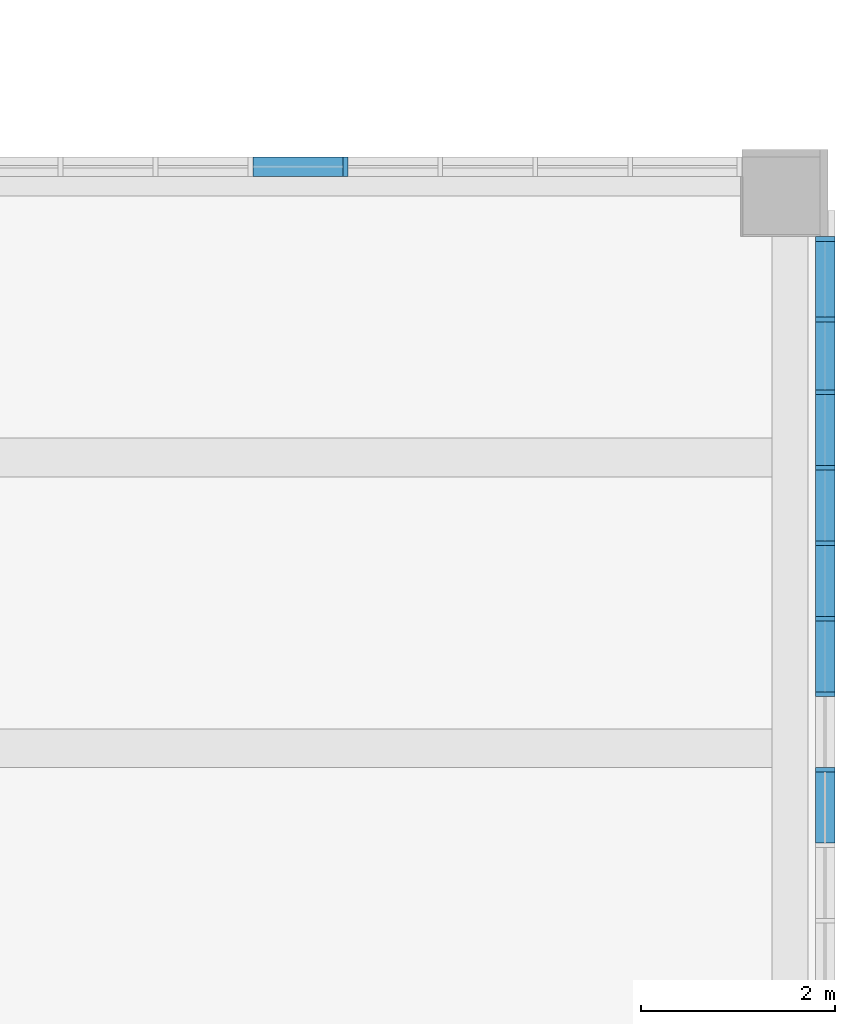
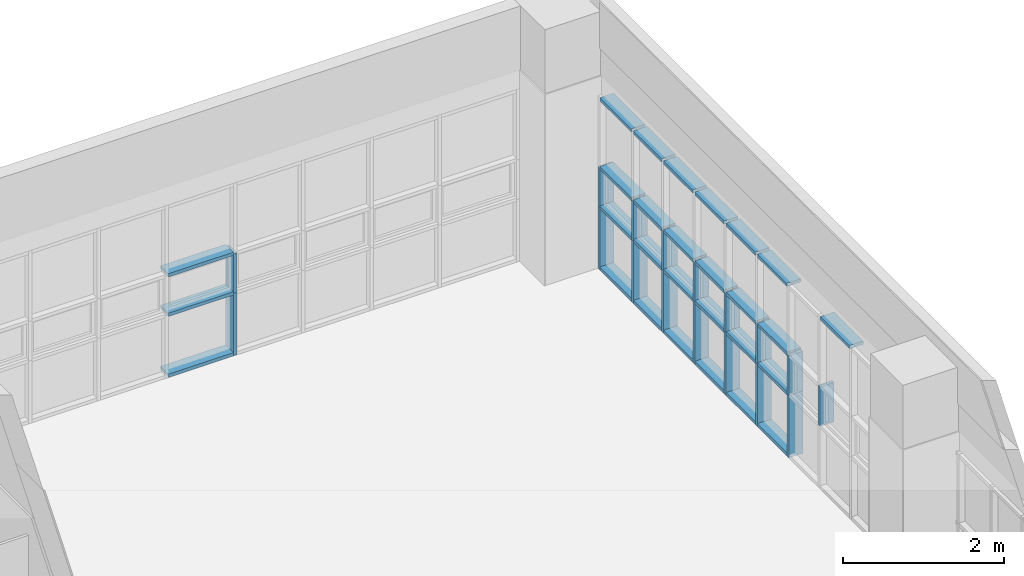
# One storey, part 25 of 76: 45 members, 2 elements without a shape of their own.
"""IFC2X3 building model written with IfcOpenShell, lengths in millimetres."""

from ifc_helpers import new_model, entity, si_unit, converted_unit, derived_unit, direction, frame, origin, origin_2d_with_axis, place, context, subcontext, project, spatial, rectangle, extrude, source, transform, mapped, material, type_object, type_shapes, element, aggregate, save


model = new_model("IFC2X3")

# Units and contexts
model_context = context("Model", 3, precision=0.01, world=origin(), true_north=direction((6.123031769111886e-17, 1.0)))
body_context = subcontext(model_context, "Body", "Model", "MODEL_VIEW")
ifc_project = project(units=[si_unit("LENGTHUNIT", "METRE", prefix="MILLI"), si_unit("AREAUNIT", "SQUARE_METRE"), si_unit("VOLUMEUNIT", "CUBIC_METRE"), converted_unit("PLANEANGLEUNIT", "DEGREE", entity("IfcRatioMeasure", 0.017453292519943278), si_unit("PLANEANGLEUNIT", "RADIAN"), dimensions=[0, 0, 0, 0, 0, 0, 0]), si_unit("MASSUNIT", "GRAM", prefix="KILO"), derived_unit("MASSDENSITYUNIT", [(si_unit("MASSUNIT", "GRAM", prefix="KILO"), 1), (si_unit("LENGTHUNIT", "METRE"), -3)]), derived_unit("MOMENTOFINERTIAUNIT", [(si_unit("LENGTHUNIT", "METRE"), 4)]), si_unit("TIMEUNIT", "SECOND"), si_unit("FREQUENCYUNIT", "HERTZ"), si_unit("THERMODYNAMICTEMPERATUREUNIT", "DEGREE_CELSIUS"), derived_unit("THERMALTRANSMITTANCEUNIT", [(si_unit("MASSUNIT", "GRAM", prefix="KILO"), 1), (si_unit("THERMODYNAMICTEMPERATUREUNIT", "KELVIN"), -1), (si_unit("TIMEUNIT", "SECOND"), -3)]), derived_unit("VOLUMETRICFLOWRATEUNIT", [(si_unit("LENGTHUNIT", "METRE"), 3), (si_unit("TIMEUNIT", "SECOND"), -1)]), derived_unit("MASSFLOWRATEUNIT", [(si_unit("MASSUNIT", "GRAM", prefix="KILO"), 1), (si_unit("TIMEUNIT", "SECOND"), -1)]), derived_unit("ROTATIONALFREQUENCYUNIT", [(si_unit("TIMEUNIT", "SECOND"), -1)]), si_unit("ELECTRICCURRENTUNIT", "AMPERE"), si_unit("ELECTRICVOLTAGEUNIT", "VOLT"), si_unit("POWERUNIT", "WATT"), si_unit("FORCEUNIT", "NEWTON", prefix="KILO"), si_unit("ILLUMINANCEUNIT", "LUX"), si_unit("LUMINOUSFLUXUNIT", "LUMEN"), si_unit("LUMINOUSINTENSITYUNIT", "CANDELA"), derived_unit("USERDEFINED", [(si_unit("MASSUNIT", "GRAM", prefix="KILO"), -1), (si_unit("LENGTHUNIT", "METRE"), -2), (si_unit("TIMEUNIT", "SECOND"), 3), (si_unit("LUMINOUSFLUXUNIT", "LUMEN"), 1)]), derived_unit("SOUNDPOWERUNIT", [(si_unit("MASSUNIT", "GRAM", prefix="KILO"), 1), (si_unit("LENGTHUNIT", "METRE"), 2), (si_unit("TIMEUNIT", "SECOND"), -3)]), derived_unit("SOUNDPRESSUREUNIT", [(si_unit("MASSUNIT", "GRAM", prefix="KILO"), 1), (si_unit("LENGTHUNIT", "METRE"), -1), (si_unit("TIMEUNIT", "SECOND"), -2)]), derived_unit("LINEARVELOCITYUNIT", [(si_unit("LENGTHUNIT", "METRE"), 1), (si_unit("TIMEUNIT", "SECOND"), -1)]), si_unit("PRESSUREUNIT", "PASCAL"), derived_unit("USERDEFINED", [(si_unit("LENGTHUNIT", "METRE"), -2), (si_unit("MASSUNIT", "GRAM", prefix="KILO"), 1), (si_unit("TIMEUNIT", "SECOND"), -2)]), derived_unit("LINEARFORCEUNIT", [(si_unit("MASSUNIT", "GRAM", prefix="KILO"), 1), (si_unit("LENGTHUNIT", "METRE"), 1), (si_unit("TIMEUNIT", "SECOND"), -2), (si_unit("LENGTHUNIT", "METRE"), -1)]), derived_unit("PLANARFORCEUNIT", [(si_unit("MASSUNIT", "GRAM", prefix="KILO"), 1), (si_unit("LENGTHUNIT", "METRE"), 1), (si_unit("TIMEUNIT", "SECOND"), -2), (si_unit("LENGTHUNIT", "METRE"), -2)])], contexts=[model_context])

# Site, building, storey
site_placement = place(None, frame((-14167.972527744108, -657.2125860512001, 0.0)))
site = spatial("IfcSite", under=ifc_project, at=site_placement, Name="Default", CompositionType="ELEMENT")
building_placement = place(site_placement, origin())
building = spatial("IfcBuilding", under=site, at=building_placement, Name="Sample Building", CompositionType="ELEMENT")
storey_placement = place(building_placement, frame((0.0, 0.0, 9300.0)))
storey = spatial("IfcBuildingStorey", under=building, at=storey_placement, Name="지상 3층", CompositionType="ELEMENT", Elevation=9300.000000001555)

# Curtain wall, member
curtain_wall_type = type_object("IfcCurtainWallType", Name="커튼월:CW112-스테인리스 스틸 커튼월", PredefinedType="NOTDEFINED")
curtain_wall_1_placement = place(storey_placement, frame((0.0, 0.0, -9300.0)))
curtain_wall_1 = element("IfcCurtainWall", 1, at=curtain_wall_1_placement, inside=storey, type_object=curtain_wall_type, Name="커튼월:CW112-스테인리스 스틸 커튼월", ObjectType="커튼월:CW112-스테인리스 스틸 커튼월")
ifc_material = material(Name="<Unnamed>")
member_type_1 = type_object("IfcMemberType", Name="직사각형 멀리언:CW200-직사각형 멀리언 50x200mm", PredefinedType="MULLION", material=ifc_material)
shared_shape_1 = source(origin(), body_context, "Body", "SweptSolid", [
    extrude(rectangle(XDim=200.0, YDim=50.0, at=origin_2d_with_axis()), frame((0.0, 0.0, -600.0), z_axis=(0.0, 0.0, 1.0), x_axis=(0.0, -1.0, 0.0)), (0.0, 0.0, 1.0), 600.0),
])
type_shapes(member_type_1, [shared_shape_1])
member_1_placement = place(curtain_wall_1_placement, frame((51517.96382893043, 26051.81770709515, 10330.0), z_axis=(0.0, 0.0, -1.0), x_axis=(0.0, -1.0, 0.0)))
member_1 = element("IfcMember", 2, at=member_1_placement, type_object=member_type_1, material=ifc_material, Name="직사각형 멀리언:CW200-직사각형 멀리언 50x200mm", ObjectType="직사각형 멀리언:CW200-직사각형 멀리언 50x200mm", context=body_context, shape_type="MappedRepresentation", body=[
    mapped(shared_shape_1, transform((0.0, 0.0, 0.0), scale=1.0)),
])

# Curtain wall, members
curtain_wall_2_placement = place(storey_placement, frame((0.0, 0.0, -9300.0)))
curtain_wall_2 = element("IfcCurtainWall", 3, at=curtain_wall_2_placement, inside=storey, type_object=curtain_wall_type, Name="커튼월:CW112-스테인리스 스틸 커튼월", ObjectType="커튼월:CW112-스테인리스 스틸 커튼월")
member_type_2 = type_object("IfcMemberType", Name="직사각형 멀리언:CW200-직사각형 멀리언 50x200mm", PredefinedType="MULLION", material=ifc_material)
shared_shape_2 = source(origin(), body_context, "Body", "SweptSolid", [
    extrude(rectangle(XDim=200.0, YDim=50.0, at=origin_2d_with_axis()), frame((0.0, 0.0, -600.0), z_axis=(0.0, 0.0, 1.0), x_axis=(0.0, -1.0, 0.0)), (0.0, 0.0, 1.0), 600.0),
])
type_shapes(member_type_2, [shared_shape_2])
member_2_placement = place(curtain_wall_2_placement, frame((46567.96815711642, 29157.21229514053, 10330.0), z_axis=(0.0, 0.0, -1.0), x_axis=(-1.0, 0.0, 0.0)))
member_2 = element("IfcMember", 4, at=member_2_placement, type_object=member_type_2, material=ifc_material, Name="직사각형 멀리언:CW200-직사각형 멀리언 50x200mm", ObjectType="직사각형 멀리언:CW200-직사각형 멀리언 50x200mm", context=body_context, shape_type="MappedRepresentation", body=[
    mapped(shared_shape_2, transform((0.0, 0.0, 0.0), scale=1.0)),
])
member_type_3 = type_object("IfcMemberType", Name="직사각형 멀리언:CW200-직사각형 멀리언 50x200mm", PredefinedType="MULLION", material=ifc_material)
shared_shape_3 = source(origin(), body_context, "Body", "SweptSolid", [
    extrude(rectangle(XDim=200.0, YDim=50.0, at=origin_2d_with_axis()), frame((0.0, 0.0, -950.0), z_axis=(0.0, 0.0, 1.0), x_axis=(0.0, -1.0, 0.0)), (0.0, 0.0, 1.0), 949.9999999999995),
])
type_shapes(member_type_3, [shared_shape_3])
member_3_placement = place(curtain_wall_2_placement, frame((46567.96815711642, 29157.21229514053, 9380.0), z_axis=(0.0, 0.0, -1.0), x_axis=(-1.0, 0.0, 0.0)))
member_3 = element("IfcMember", 5, at=member_3_placement, type_object=member_type_3, material=ifc_material, Name="직사각형 멀리언:CW200-직사각형 멀리언 50x200mm", ObjectType="직사각형 멀리언:CW200-직사각형 멀리언 50x200mm", context=body_context, shape_type="MappedRepresentation", body=[
    mapped(shared_shape_3, transform((0.0, 0.0, 0.0), scale=1.0)),
])

# Member
member_type_4 = type_object("IfcMemberType", Name="직사각형 멀리언:CW200-직사각형 멀리언 50x200mm", PredefinedType="MULLION", material=ifc_material)
shared_shape_4 = source(origin(), body_context, "Body", "SweptSolid", [
    extrude(rectangle(XDim=200.0, YDim=50.0, at=origin_2d_with_axis()), frame((-25.0, 0.0, -783.3946888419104), z_axis=(0.0, 0.0, 1.0), x_axis=(0.0, -1.0, 0.0)), (0.0, 0.0, 1.0), 783.3946888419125),
])
type_shapes(member_type_4, [shared_shape_4])
member_4_placement = place(curtain_wall_1_placement, frame((51517.96382893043, 28389.21239593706, 9380.0), z_axis=(0.0, 1.0, 0.0), x_axis=(0.0, 0.0, -1.0)))
member_4 = element("IfcMember", 6, at=member_4_placement, type_object=member_type_4, material=ifc_material, Name="직사각형 멀리언:CW200-직사각형 멀리언 50x200mm", ObjectType="직사각형 멀리언:CW200-직사각형 멀리언 50x200mm", context=body_context, shape_type="MappedRepresentation", body=[
    mapped(shared_shape_4, transform((0.0, 0.0, 0.0), scale=1.0)),
])

member_type_5 = type_object("IfcMemberType", Name="직사각형 멀리언:CW200-직사각형 멀리언 50x200mm", PredefinedType="MULLION", material=ifc_material)
shared_shape_5 = source(origin(), body_context, "Body", "SweptSolid", [
    extrude(rectangle(XDim=200.0, YDim=50.0, at=origin_2d_with_axis()), frame((-25.0, 0.0, -600.0), z_axis=(0.0, 0.0, 1.0), x_axis=(0.0, -1.0, 0.0)), (0.0, 0.0, 1.0), 599.9999999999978),
])
type_shapes(member_type_5, [shared_shape_5])
member_5_placement = place(curtain_wall_1_placement, frame((51517.96382893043, 28439.212395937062, 10930.0), z_axis=(0.0, 0.0, 1.0), x_axis=(0.0, 1.0, 0.0)))
member_5 = element("IfcMember", 7, at=member_5_placement, type_object=member_type_5, material=ifc_material, Name="직사각형 멀리언:CW200-직사각형 멀리언 50x200mm", ObjectType="직사각형 멀리언:CW200-직사각형 멀리언 50x200mm", context=body_context, shape_type="MappedRepresentation", body=[
    mapped(shared_shape_5, transform((0.0, 0.0, 0.0), scale=1.0)),
])

member_type_6 = type_object("IfcMemberType", Name="직사각형 멀리언:CW200-직사각형 멀리언 50x200mm", PredefinedType="MULLION", material=ifc_material)
shared_shape_6 = source(origin(), body_context, "Body", "SweptSolid", [
    extrude(rectangle(XDim=200.0, YDim=50.0, at=origin_2d_with_axis()), frame((-25.0, 0.0, -950.0), z_axis=(0.0, 0.0, 1.0), x_axis=(0.0, -1.0, 0.0)), (0.0, 0.0, 1.0), 950.0000000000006),
])
type_shapes(member_type_6, [shared_shape_6])
member_6_placement = place(curtain_wall_1_placement, frame((51517.96382893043, 28439.212395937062, 10330.0), z_axis=(0.0, 0.0, 1.0), x_axis=(0.0, 1.0, 0.0)))
member_6 = element("IfcMember", 8, at=member_6_placement, type_object=member_type_6, material=ifc_material, Name="직사각형 멀리언:CW200-직사각형 멀리언 50x200mm", ObjectType="직사각형 멀리언:CW200-직사각형 멀리언 50x200mm", context=body_context, shape_type="MappedRepresentation", body=[
    mapped(shared_shape_6, transform((0.0, 0.0, 0.0), scale=1.0)),
])

member_type_7 = type_object("IfcMemberType", Name="직사각형 멀리언:CW200-직사각형 멀리언 50x200mm", PredefinedType="MULLION", material=ifc_material)
shared_shape_7 = source(origin(), body_context, "Body", "SweptSolid", [
    extrude(rectangle(XDim=200.0, YDim=50.0, at=origin_2d_with_axis()), frame((-25.0, 0.0, -783.3946888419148), z_axis=(0.0, 0.0, 1.0), x_axis=(0.0, -1.0, 0.0)), (0.0, 0.0, 1.0), 783.3946888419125),
])
type_shapes(member_type_7, [shared_shape_7])
member_7_placement = place(curtain_wall_1_placement, frame((51517.96382893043, 27605.817707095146, 12000.0), z_axis=(0.0, -1.0, 0.0), x_axis=(0.0, 0.0, 1.0)))
member_7 = element("IfcMember", 9, at=member_7_placement, type_object=member_type_7, material=ifc_material, Name="직사각형 멀리언:CW200-직사각형 멀리언 50x200mm", ObjectType="직사각형 멀리언:CW200-직사각형 멀리언 50x200mm", context=body_context, shape_type="MappedRepresentation", body=[
    mapped(shared_shape_7, transform((0.0, 0.0, 0.0), scale=1.0)),
])

member_type_8 = type_object("IfcMemberType", Name="직사각형 멀리언:CW200-직사각형 멀리언 50x200mm", PredefinedType="MULLION", material=ifc_material)
shared_shape_8 = source(origin(), body_context, "Body", "SweptSolid", [
    extrude(rectangle(XDim=200.0, YDim=50.0, at=origin_2d_with_axis()), frame((-25.0, 0.0, -700.0), z_axis=(0.0, 0.0, 1.0), x_axis=(0.0, -1.0, 0.0)), (0.0, 0.0, 1.0), 699.999999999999),
])
type_shapes(member_type_8, [shared_shape_8])
member_8_placement = place(curtain_wall_1_placement, frame((51517.96382893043, 27555.81770709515, 9380.0), z_axis=(0.0, 1.0, 0.0), x_axis=(0.0, 0.0, -1.0)))
member_8 = element("IfcMember", 10, at=member_8_placement, type_object=member_type_8, material=ifc_material, Name="직사각형 멀리언:CW200-직사각형 멀리언 50x200mm", ObjectType="직사각형 멀리언:CW200-직사각형 멀리언 50x200mm", context=body_context, shape_type="MappedRepresentation", body=[
    mapped(shared_shape_8, transform((0.0, 0.0, 0.0), scale=1.0)),
])

member_type_9 = type_object("IfcMemberType", Name="직사각형 멀리언:CW200-직사각형 멀리언 50x200mm", PredefinedType="MULLION", material=ifc_material)
shared_shape_9 = source(origin(), body_context, "Body", "SweptSolid", [
    extrude(rectangle(XDim=200.0, YDim=50.0, at=origin_2d_with_axis()), frame((0.0, 0.0, -700.0), z_axis=(0.0, 0.0, 1.0), x_axis=(0.0, -1.0, 0.0)), (0.0, 0.0, 1.0), 699.9999999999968),
])
type_shapes(member_type_9, [shared_shape_9])
member_9_placement = place(curtain_wall_1_placement, frame((51517.96382893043, 26855.81770709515, 10330.0), z_axis=(0.0, -1.0, 0.0), x_axis=(0.0, 0.0, 1.0)))
member_9 = element("IfcMember", 11, at=member_9_placement, type_object=member_type_9, material=ifc_material, Name="직사각형 멀리언:CW200-직사각형 멀리언 50x200mm", ObjectType="직사각형 멀리언:CW200-직사각형 멀리언 50x200mm", context=body_context, shape_type="MappedRepresentation", body=[
    mapped(shared_shape_9, transform((0.0, 0.0, 0.0), scale=1.0)),
])

member_10_placement = place(curtain_wall_1_placement, frame((51517.96382893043, 26855.81770709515, 10930.0), z_axis=(0.0, -1.0, 0.0), x_axis=(0.0, 0.0, 1.0)))
member_10 = element("IfcMember", 12, at=member_10_placement, type_object=member_type_9, material=ifc_material, Name="직사각형 멀리언:CW200-직사각형 멀리언 50x200mm", ObjectType="직사각형 멀리언:CW200-직사각형 멀리언 50x200mm", context=body_context, shape_type="MappedRepresentation", body=[
    mapped(shared_shape_9, transform((0.0, 0.0, 0.0), scale=1.0)),
])

member_type_10 = type_object("IfcMemberType", Name="직사각형 멀리언:CW200-직사각형 멀리언 50x200mm", PredefinedType="MULLION", material=ifc_material)
shared_shape_10 = source(origin(), body_context, "Body", "SweptSolid", [
    extrude(rectangle(XDim=200.0, YDim=50.0, at=origin_2d_with_axis()), frame((0.0, 0.0, -950.0), z_axis=(0.0, 0.0, 1.0), x_axis=(0.0, -1.0, 0.0)), (0.0, 0.0, 1.0), 950.0000000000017),
])
type_shapes(member_type_10, [shared_shape_10])
member_11_placement = place(curtain_wall_1_placement, frame((51517.96382893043, 27580.817707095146, 9380.0), z_axis=(0.0, 0.0, -1.0), x_axis=(0.0, -1.0, 0.0)))
member_11 = element("IfcMember", 13, at=member_11_placement, type_object=member_type_10, material=ifc_material, Name="직사각형 멀리언:CW200-직사각형 멀리언 50x200mm", ObjectType="직사각형 멀리언:CW200-직사각형 멀리언 50x200mm", context=body_context, shape_type="MappedRepresentation", body=[
    mapped(shared_shape_10, transform((0.0, 0.0, 0.0), scale=1.0)),
])

member_12_placement = place(curtain_wall_1_placement, frame((51517.96382893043, 26830.81770709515, 9380.0), z_axis=(0.0, 0.0, -1.0), x_axis=(0.0, -1.0, 0.0)))
member_12 = element("IfcMember", 14, at=member_12_placement, type_object=member_type_10, material=ifc_material, Name="직사각형 멀리언:CW200-직사각형 멀리언 50x200mm", ObjectType="직사각형 멀리언:CW200-직사각형 멀리언 50x200mm", context=body_context, shape_type="MappedRepresentation", body=[
    mapped(shared_shape_10, transform((0.0, 0.0, 0.0), scale=1.0)),
])

member_13_placement = place(curtain_wall_1_placement, frame((51517.96382893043, 25272.81770709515, 9380.0), z_axis=(0.0, 0.0, -1.0), x_axis=(0.0, -1.0, 0.0)))
member_13 = element("IfcMember", 15, at=member_13_placement, type_object=member_type_10, material=ifc_material, Name="직사각형 멀리언:CW200-직사각형 멀리언 50x200mm", ObjectType="직사각형 멀리언:CW200-직사각형 멀리언 50x200mm", context=body_context, shape_type="MappedRepresentation", body=[
    mapped(shared_shape_10, transform((0.0, 0.0, 0.0), scale=1.0)),
])

member_14_placement = place(curtain_wall_1_placement, frame((51517.96382893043, 24493.81770709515, 9380.0), z_axis=(0.0, 0.0, -1.0), x_axis=(0.0, -1.0, 0.0)))
member_14 = element("IfcMember", 16, at=member_14_placement, type_object=member_type_10, material=ifc_material, Name="직사각형 멀리언:CW200-직사각형 멀리언 50x200mm", ObjectType="직사각형 멀리언:CW200-직사각형 멀리언 50x200mm", context=body_context, shape_type="MappedRepresentation", body=[
    mapped(shared_shape_10, transform((0.0, 0.0, 0.0), scale=1.0)),
])

member_15_placement = place(curtain_wall_1_placement, frame((51517.96382893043, 23714.817707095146, 9380.0), z_axis=(0.0, 0.0, -1.0), x_axis=(0.0, -1.0, 0.0)))
member_15 = element("IfcMember", 17, at=member_15_placement, type_object=member_type_10, material=ifc_material, Name="직사각형 멀리언:CW200-직사각형 멀리언 50x200mm", ObjectType="직사각형 멀리언:CW200-직사각형 멀리언 50x200mm", context=body_context, shape_type="MappedRepresentation", body=[
    mapped(shared_shape_10, transform((0.0, 0.0, 0.0), scale=1.0)),
])

member_type_11 = type_object("IfcMemberType", Name="직사각형 멀리언:CW200-직사각형 멀리언 50x200mm", PredefinedType="MULLION", material=ifc_material)
shared_shape_11 = source(origin(), body_context, "Body", "SweptSolid", [
    extrude(rectangle(XDim=200.0, YDim=50.0, at=origin_2d_with_axis()), frame((0.0, 0.0, -600.0), z_axis=(0.0, 0.0, 1.0), x_axis=(0.0, -1.0, 0.0)), (0.0, 0.0, 1.0), 599.9999999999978),
])
type_shapes(member_type_11, [shared_shape_11])
member_16_placement = place(curtain_wall_1_placement, frame((51517.96382893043, 27580.817707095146, 10330.0), z_axis=(0.0, 0.0, -1.0), x_axis=(0.0, -1.0, 0.0)))
member_16 = element("IfcMember", 18, at=member_16_placement, type_object=member_type_11, material=ifc_material, Name="직사각형 멀리언:CW200-직사각형 멀리언 50x200mm", ObjectType="직사각형 멀리언:CW200-직사각형 멀리언 50x200mm", context=body_context, shape_type="MappedRepresentation", body=[
    mapped(shared_shape_11, transform((0.0, 0.0, 0.0), scale=1.0)),
])

member_17_placement = place(curtain_wall_1_placement, frame((51517.96382893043, 26830.81770709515, 10330.0), z_axis=(0.0, 0.0, -1.0), x_axis=(0.0, -1.0, 0.0)))
member_17 = element("IfcMember", 19, at=member_17_placement, type_object=member_type_11, material=ifc_material, Name="직사각형 멀리언:CW200-직사각형 멀리언 50x200mm", ObjectType="직사각형 멀리언:CW200-직사각형 멀리언 50x200mm", context=body_context, shape_type="MappedRepresentation", body=[
    mapped(shared_shape_11, transform((0.0, 0.0, 0.0), scale=1.0)),
])

member_18_placement = place(curtain_wall_1_placement, frame((51517.96382893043, 25272.81770709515, 10330.0), z_axis=(0.0, 0.0, -1.0), x_axis=(0.0, -1.0, 0.0)))
member_18 = element("IfcMember", 20, at=member_18_placement, type_object=member_type_11, material=ifc_material, Name="직사각형 멀리언:CW200-직사각형 멀리언 50x200mm", ObjectType="직사각형 멀리언:CW200-직사각형 멀리언 50x200mm", context=body_context, shape_type="MappedRepresentation", body=[
    mapped(shared_shape_11, transform((0.0, 0.0, 0.0), scale=1.0)),
])

member_19_placement = place(curtain_wall_1_placement, frame((51517.96382893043, 24493.81770709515, 10330.0), z_axis=(0.0, 0.0, -1.0), x_axis=(0.0, -1.0, 0.0)))
member_19 = element("IfcMember", 21, at=member_19_placement, type_object=member_type_11, material=ifc_material, Name="직사각형 멀리언:CW200-직사각형 멀리언 50x200mm", ObjectType="직사각형 멀리언:CW200-직사각형 멀리언 50x200mm", context=body_context, shape_type="MappedRepresentation", body=[
    mapped(shared_shape_11, transform((0.0, 0.0, 0.0), scale=1.0)),
])

member_20_placement = place(curtain_wall_1_placement, frame((51517.96382893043, 23714.817707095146, 10330.0), z_axis=(0.0, 0.0, -1.0), x_axis=(0.0, -1.0, 0.0)))
member_20 = element("IfcMember", 22, at=member_20_placement, type_object=member_type_11, material=ifc_material, Name="직사각형 멀리언:CW200-직사각형 멀리언 50x200mm", ObjectType="직사각형 멀리언:CW200-직사각형 멀리언 50x200mm", context=body_context, shape_type="MappedRepresentation", body=[
    mapped(shared_shape_11, transform((0.0, 0.0, 0.0), scale=1.0)),
])

member_21_placement = place(curtain_wall_1_placement, frame((51517.963828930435, 22935.817707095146, 10330.0), z_axis=(0.0, 0.0, -1.0), x_axis=(0.0, -1.0, 0.0)))
member_21 = element("IfcMember", 23, at=member_21_placement, type_object=member_type_11, material=ifc_material, Name="직사각형 멀리언:CW200-직사각형 멀리언 50x200mm", ObjectType="직사각형 멀리언:CW200-직사각형 멀리언 50x200mm", context=body_context, shape_type="MappedRepresentation", body=[
    mapped(shared_shape_11, transform((0.0, 0.0, 0.0), scale=1.0)),
])

member_type_12 = type_object("IfcMemberType", Name="직사각형 멀리언:CW200-직사각형 멀리언 50x200mm", PredefinedType="MULLION", material=ifc_material)
shared_shape_12 = source(origin(), body_context, "Body", "SweptSolid", [
    extrude(rectangle(XDim=200.0, YDim=50.0, at=origin_2d_with_axis()), frame((-25.0, 0.0, -700.0), z_axis=(0.0, 0.0, 1.0), x_axis=(0.0, -1.0, 0.0)), (0.0, 0.0, 1.0), 699.9999999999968),
])
type_shapes(member_type_12, [shared_shape_12])
member_22_placement = place(curtain_wall_1_placement, frame((51517.96382893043, 26855.81770709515, 12000.0), z_axis=(0.0, -1.0, 0.0), x_axis=(0.0, 0.0, 1.0)))
member_22 = element("IfcMember", 24, at=member_22_placement, type_object=member_type_12, material=ifc_material, Name="직사각형 멀리언:CW200-직사각형 멀리언 50x200mm", ObjectType="직사각형 멀리언:CW200-직사각형 멀리언 50x200mm", context=body_context, shape_type="MappedRepresentation", body=[
    mapped(shared_shape_12, transform((0.0, 0.0, 0.0), scale=1.0)),
])

member_type_13 = type_object("IfcMemberType", Name="직사각형 멀리언:CW200-직사각형 멀리언 50x200mm", PredefinedType="MULLION", material=ifc_material)
shared_shape_13 = source(origin(), body_context, "Body", "SweptSolid", [
    extrude(rectangle(XDim=200.0, YDim=50.0, at=origin_2d_with_axis()), frame((-25.0, 0.0, -729.0), z_axis=(0.0, 0.0, 1.0), x_axis=(0.0, -1.0, 0.0)), (0.0, 0.0, 1.0), 729.000000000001),
])
type_shapes(member_type_13, [shared_shape_13])
member_23_placement = place(curtain_wall_1_placement, frame((51517.96382893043, 26805.81770709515, 9380.0), z_axis=(0.0, 1.0, 0.0), x_axis=(0.0, 0.0, -1.0)))
member_23 = element("IfcMember", 25, at=member_23_placement, type_object=member_type_13, material=ifc_material, Name="직사각형 멀리언:CW200-직사각형 멀리언 50x200mm", ObjectType="직사각형 멀리언:CW200-직사각형 멀리언 50x200mm", context=body_context, shape_type="MappedRepresentation", body=[
    mapped(shared_shape_13, transform((0.0, 0.0, 0.0), scale=1.0)),
])

member_24_placement = place(curtain_wall_1_placement, frame((51517.96382893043, 25247.81770709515, 9380.0), z_axis=(0.0, 1.0, 0.0), x_axis=(0.0, 0.0, -1.0)))
member_24 = element("IfcMember", 26, at=member_24_placement, type_object=member_type_13, material=ifc_material, Name="직사각형 멀리언:CW200-직사각형 멀리언 50x200mm", ObjectType="직사각형 멀리언:CW200-직사각형 멀리언 50x200mm", context=body_context, shape_type="MappedRepresentation", body=[
    mapped(shared_shape_13, transform((0.0, 0.0, 0.0), scale=1.0)),
])

member_25_placement = place(curtain_wall_1_placement, frame((51517.96382893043, 24468.81770709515, 9380.0), z_axis=(0.0, 1.0, 0.0), x_axis=(0.0, 0.0, -1.0)))
member_25 = element("IfcMember", 27, at=member_25_placement, type_object=member_type_13, material=ifc_material, Name="직사각형 멀리언:CW200-직사각형 멀리언 50x200mm", ObjectType="직사각형 멀리언:CW200-직사각형 멀리언 50x200mm", context=body_context, shape_type="MappedRepresentation", body=[
    mapped(shared_shape_13, transform((0.0, 0.0, 0.0), scale=1.0)),
])

member_type_14 = type_object("IfcMemberType", Name="직사각형 멀리언:CW200-직사각형 멀리언 50x200mm", PredefinedType="MULLION", material=ifc_material)
shared_shape_14 = source(origin(), body_context, "Body", "SweptSolid", [
    extrude(rectangle(XDim=200.0, YDim=50.0, at=origin_2d_with_axis()), frame((0.0, 0.0, -729.0), z_axis=(0.0, 0.0, 1.0), x_axis=(0.0, -1.0, 0.0)), (0.0, 0.0, 1.0), 728.9999999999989),
])
type_shapes(member_type_14, [shared_shape_14])
member_26_placement = place(curtain_wall_1_placement, frame((51517.96382893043, 26076.817707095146, 10330.0), z_axis=(0.0, -1.0, 0.0), x_axis=(0.0, 0.0, 1.0)))
member_26 = element("IfcMember", 28, at=member_26_placement, type_object=member_type_14, material=ifc_material, Name="직사각형 멀리언:CW200-직사각형 멀리언 50x200mm", ObjectType="직사각형 멀리언:CW200-직사각형 멀리언 50x200mm", context=body_context, shape_type="MappedRepresentation", body=[
    mapped(shared_shape_14, transform((0.0, 0.0, 0.0), scale=1.0)),
])

member_27_placement = place(curtain_wall_1_placement, frame((51517.96382893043, 26076.817707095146, 10930.0), z_axis=(0.0, -1.0, 0.0), x_axis=(0.0, 0.0, 1.0)))
member_27 = element("IfcMember", 29, at=member_27_placement, type_object=member_type_14, material=ifc_material, Name="직사각형 멀리언:CW200-직사각형 멀리언 50x200mm", ObjectType="직사각형 멀리언:CW200-직사각형 멀리언 50x200mm", context=body_context, shape_type="MappedRepresentation", body=[
    mapped(shared_shape_14, transform((0.0, 0.0, 0.0), scale=1.0)),
])

member_28_placement = place(curtain_wall_1_placement, frame((51517.96382893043, 24518.817707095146, 10330.0), z_axis=(0.0, -1.0, 0.0), x_axis=(0.0, 0.0, 1.0)))
member_28 = element("IfcMember", 30, at=member_28_placement, type_object=member_type_14, material=ifc_material, Name="직사각형 멀리언:CW200-직사각형 멀리언 50x200mm", ObjectType="직사각형 멀리언:CW200-직사각형 멀리언 50x200mm", context=body_context, shape_type="MappedRepresentation", body=[
    mapped(shared_shape_14, transform((0.0, 0.0, 0.0), scale=1.0)),
])

member_29_placement = place(curtain_wall_1_placement, frame((51517.96382893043, 24518.817707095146, 10930.0), z_axis=(0.0, -1.0, 0.0), x_axis=(0.0, 0.0, 1.0)))
member_29 = element("IfcMember", 31, at=member_29_placement, type_object=member_type_14, material=ifc_material, Name="직사각형 멀리언:CW200-직사각형 멀리언 50x200mm", ObjectType="직사각형 멀리언:CW200-직사각형 멀리언 50x200mm", context=body_context, shape_type="MappedRepresentation", body=[
    mapped(shared_shape_14, transform((0.0, 0.0, 0.0), scale=1.0)),
])

member_30_placement = place(curtain_wall_1_placement, frame((51517.96382893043, 23739.817707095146, 10330.0), z_axis=(0.0, -1.0, 0.0), x_axis=(0.0, 0.0, 1.0)))
member_30 = element("IfcMember", 32, at=member_30_placement, type_object=member_type_14, material=ifc_material, Name="직사각형 멀리언:CW200-직사각형 멀리언 50x200mm", ObjectType="직사각형 멀리언:CW200-직사각형 멀리언 50x200mm", context=body_context, shape_type="MappedRepresentation", body=[
    mapped(shared_shape_14, transform((0.0, 0.0, 0.0), scale=1.0)),
])

member_31_placement = place(curtain_wall_1_placement, frame((51517.96382893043, 23739.817707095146, 10930.0), z_axis=(0.0, -1.0, 0.0), x_axis=(0.0, 0.0, 1.0)))
member_31 = element("IfcMember", 33, at=member_31_placement, type_object=member_type_14, material=ifc_material, Name="직사각형 멀리언:CW200-직사각형 멀리언 50x200mm", ObjectType="직사각형 멀리언:CW200-직사각형 멀리언 50x200mm", context=body_context, shape_type="MappedRepresentation", body=[
    mapped(shared_shape_14, transform((0.0, 0.0, 0.0), scale=1.0)),
])

member_type_15 = type_object("IfcMemberType", Name="직사각형 멀리언:CW200-직사각형 멀리언 50x200mm", PredefinedType="MULLION", material=ifc_material)
shared_shape_15 = source(origin(), body_context, "Body", "SweptSolid", [
    extrude(rectangle(XDim=200.0, YDim=50.0, at=origin_2d_with_axis()), frame((-25.0, 0.0, -729.0), z_axis=(0.0, 0.0, 1.0), x_axis=(0.0, -1.0, 0.0)), (0.0, 0.0, 1.0), 728.9999999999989),
])
type_shapes(member_type_15, [shared_shape_15])
member_32_placement = place(curtain_wall_1_placement, frame((51517.96382893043, 25297.817707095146, 12000.0), z_axis=(0.0, -1.0, 0.0), x_axis=(0.0, 0.0, 1.0)))
member_32 = element("IfcMember", 34, at=member_32_placement, type_object=member_type_15, material=ifc_material, Name="직사각형 멀리언:CW200-직사각형 멀리언 50x200mm", ObjectType="직사각형 멀리언:CW200-직사각형 멀리언 50x200mm", context=body_context, shape_type="MappedRepresentation", body=[
    mapped(shared_shape_15, transform((0.0, 0.0, 0.0), scale=1.0)),
])

member_33_placement = place(curtain_wall_1_placement, frame((51517.96382893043, 24518.817707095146, 12000.0), z_axis=(0.0, -1.0, 0.0), x_axis=(0.0, 0.0, 1.0)))
member_33 = element("IfcMember", 35, at=member_33_placement, type_object=member_type_15, material=ifc_material, Name="직사각형 멀리언:CW200-직사각형 멀리언 50x200mm", ObjectType="직사각형 멀리언:CW200-직사각형 멀리언 50x200mm", context=body_context, shape_type="MappedRepresentation", body=[
    mapped(shared_shape_15, transform((0.0, 0.0, 0.0), scale=1.0)),
])

member_34_placement = place(curtain_wall_1_placement, frame((51517.96382893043, 23739.817707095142, 12000.0), z_axis=(0.0, -1.0, 0.0), x_axis=(0.0, 0.0, 1.0)))
member_34 = element("IfcMember", 36, at=member_34_placement, type_object=member_type_15, material=ifc_material, Name="직사각형 멀리언:CW200-직사각형 멀리언 50x200mm", ObjectType="직사각형 멀리언:CW200-직사각형 멀리언 50x200mm", context=body_context, shape_type="MappedRepresentation", body=[
    mapped(shared_shape_15, transform((0.0, 0.0, 0.0), scale=1.0)),
])

member_35_placement = place(curtain_wall_1_placement, frame((51517.963828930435, 22181.81770709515, 12000.0), z_axis=(0.0, -1.0, 0.0), x_axis=(0.0, 0.0, 1.0)))
member_35 = element("IfcMember", 37, at=member_35_placement, type_object=member_type_15, material=ifc_material, Name="직사각형 멀리언:CW200-직사각형 멀리언 50x200mm", ObjectType="직사각형 멀리언:CW200-직사각형 멀리언 50x200mm", context=body_context, shape_type="MappedRepresentation", body=[
    mapped(shared_shape_15, transform((0.0, 0.0, 0.0), scale=1.0)),
])

member_type_16 = type_object("IfcMemberType", Name="직사각형 멀리언:CW200-직사각형 멀리언 50x200mm", PredefinedType="MULLION", material=ifc_material)
shared_shape_16 = source(origin(), body_context, "Body", "SweptSolid", [
    extrude(rectangle(XDim=200.0, YDim=50.0, at=origin_2d_with_axis()), frame((0.0, 0.0, -783.3946888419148), z_axis=(0.0, 0.0, 1.0), x_axis=(0.0, -1.0, 0.0)), (0.0, 0.0, 1.0), 783.3946888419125),
])
type_shapes(member_type_16, [shared_shape_16])
member_36_placement = place(curtain_wall_1_placement, frame((51517.96382893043, 27605.817707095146, 10930.0), z_axis=(0.0, -1.0, 0.0), x_axis=(0.0, 0.0, 1.0)))
member_36 = element("IfcMember", 38, at=member_36_placement, type_object=member_type_16, material=ifc_material, Name="직사각형 멀리언:CW200-직사각형 멀리언 50x200mm", ObjectType="직사각형 멀리언:CW200-직사각형 멀리언 50x200mm", context=body_context, shape_type="MappedRepresentation", body=[
    mapped(shared_shape_16, transform((0.0, 0.0, 0.0), scale=1.0)),
])

member_37_placement = place(curtain_wall_1_placement, frame((51517.96382893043, 27605.817707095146, 10330.0), z_axis=(0.0, -1.0, 0.0), x_axis=(0.0, 0.0, 1.0)))
member_37 = element("IfcMember", 39, at=member_37_placement, type_object=member_type_16, material=ifc_material, Name="직사각형 멀리언:CW200-직사각형 멀리언 50x200mm", ObjectType="직사각형 멀리언:CW200-직사각형 멀리언 50x200mm", context=body_context, shape_type="MappedRepresentation", body=[
    mapped(shared_shape_16, transform((0.0, 0.0, 0.0), scale=1.0)),
])

member_type_17 = type_object("IfcMemberType", Name="직사각형 멀리언:CW200-직사각형 멀리언 50x200mm", PredefinedType="MULLION", material=ifc_material)
shared_shape_17 = source(origin(), body_context, "Body", "SweptSolid", [
    extrude(rectangle(XDim=200.0, YDim=50.0, at=origin_2d_with_axis()), frame((0.0, 0.0, -950.0), z_axis=(0.0, 0.0, 1.0), x_axis=(0.0, -1.0, 0.0)), (0.0, 0.0, 1.0), 950.0000000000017),
])
type_shapes(member_type_17, [shared_shape_17])
member_38_placement = place(curtain_wall_1_placement, frame((51517.96382893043, 26051.81770709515, 9380.0), z_axis=(0.0, 0.0, -1.0), x_axis=(0.0, -1.0, 0.0)))
member_38 = element("IfcMember", 40, at=member_38_placement, type_object=member_type_17, material=ifc_material, Name="직사각형 멀리언:CW200-직사각형 멀리언 50x200mm", ObjectType="직사각형 멀리언:CW200-직사각형 멀리언 50x200mm", context=body_context, shape_type="MappedRepresentation", body=[
    mapped(shared_shape_17, transform((0.0, 0.0, 0.0), scale=1.0)),
])

member_type_18 = type_object("IfcMemberType", Name="직사각형 멀리언:CW200-직사각형 멀리언 50x200mm", PredefinedType="MULLION", material=ifc_material)
shared_shape_18 = source(origin(), body_context, "Body", "SweptSolid", [
    extrude(rectangle(XDim=200.0, YDim=50.0, at=origin_2d_with_axis()), frame((-25.0, 0.0, -729.0), z_axis=(0.0, 0.0, 1.0), x_axis=(0.0, -1.0, 0.0)), (0.0, 0.0, 1.0), 729.000000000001),
])
type_shapes(member_type_18, [shared_shape_18])
member_39_placement = place(curtain_wall_1_placement, frame((51517.96382893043, 26026.81770709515, 9380.0), z_axis=(0.0, 1.0, 0.0), x_axis=(0.0, 0.0, -1.0)))
member_39 = element("IfcMember", 41, at=member_39_placement, type_object=member_type_18, material=ifc_material, Name="직사각형 멀리언:CW200-직사각형 멀리언 50x200mm", ObjectType="직사각형 멀리언:CW200-직사각형 멀리언 50x200mm", context=body_context, shape_type="MappedRepresentation", body=[
    mapped(shared_shape_18, transform((0.0, 0.0, 0.0), scale=1.0)),
])

member_type_19 = type_object("IfcMemberType", Name="직사각형 멀리언:CW200-직사각형 멀리언 50x200mm", PredefinedType="MULLION", material=ifc_material)
shared_shape_19 = source(origin(), body_context, "Body", "SweptSolid", [
    extrude(rectangle(XDim=200.0, YDim=50.0, at=origin_2d_with_axis()), frame((0.0, 0.0, -729.0), z_axis=(0.0, 0.0, 1.0), x_axis=(0.0, -1.0, 0.0)), (0.0, 0.0, 1.0), 728.9999999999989),
])
type_shapes(member_type_19, [shared_shape_19])
member_40_placement = place(curtain_wall_1_placement, frame((51517.96382893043, 25297.817707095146, 10330.0), z_axis=(0.0, -1.0, 0.0), x_axis=(0.0, 0.0, 1.0)))
member_40 = element("IfcMember", 42, at=member_40_placement, type_object=member_type_19, material=ifc_material, Name="직사각형 멀리언:CW200-직사각형 멀리언 50x200mm", ObjectType="직사각형 멀리언:CW200-직사각형 멀리언 50x200mm", context=body_context, shape_type="MappedRepresentation", body=[
    mapped(shared_shape_19, transform((0.0, 0.0, 0.0), scale=1.0)),
])

member_41_placement = place(curtain_wall_1_placement, frame((51517.96382893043, 25297.817707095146, 10930.0), z_axis=(0.0, -1.0, 0.0), x_axis=(0.0, 0.0, 1.0)))
member_41 = element("IfcMember", 43, at=member_41_placement, type_object=member_type_19, material=ifc_material, Name="직사각형 멀리언:CW200-직사각형 멀리언 50x200mm", ObjectType="직사각형 멀리언:CW200-직사각형 멀리언 50x200mm", context=body_context, shape_type="MappedRepresentation", body=[
    mapped(shared_shape_19, transform((0.0, 0.0, 0.0), scale=1.0)),
])

member_type_20 = type_object("IfcMemberType", Name="직사각형 멀리언:CW200-직사각형 멀리언 50x200mm", PredefinedType="MULLION", material=ifc_material)
shared_shape_20 = source(origin(), body_context, "Body", "SweptSolid", [
    extrude(rectangle(XDim=200.0, YDim=50.0, at=origin_2d_with_axis()), frame((-25.0, 0.0, -729.0), z_axis=(0.0, 0.0, 1.0), x_axis=(0.0, -1.0, 0.0)), (0.0, 0.0, 1.0), 728.9999999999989),
])
type_shapes(member_type_20, [shared_shape_20])
member_42_placement = place(curtain_wall_1_placement, frame((51517.96382893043, 26076.817707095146, 12000.0), z_axis=(0.0, -1.0, 0.0), x_axis=(0.0, 0.0, 1.0)))
member_42 = element("IfcMember", 44, at=member_42_placement, type_object=member_type_20, material=ifc_material, Name="직사각형 멀리언:CW200-직사각형 멀리언 50x200mm", ObjectType="직사각형 멀리언:CW200-직사각형 멀리언 50x200mm", context=body_context, shape_type="MappedRepresentation", body=[
    mapped(shared_shape_20, transform((0.0, 0.0, 0.0), scale=1.0)),
])

aggregate(curtain_wall_1, [member_4, member_5, member_6, member_7, member_8, member_9, member_10, member_11, member_16, member_22, member_23, member_26, member_27, member_12, member_17, member_32, member_24, member_28, member_29, member_13, member_18, member_33, member_25, member_30, member_31, member_14, member_19, member_34, member_15, member_20, member_21, member_35, member_36, member_37, member_39, member_40, member_41, member_42, member_38, member_1])

member_type_21 = type_object("IfcMemberType", Name="직사각형 멀리언:CW200-직사각형 멀리언 50x200mm", PredefinedType="MULLION", material=ifc_material)
shared_shape_21 = source(origin(), body_context, "Body", "SweptSolid", [
    extrude(rectangle(XDim=200.0, YDim=50.0, at=origin_2d_with_axis()), frame((-25.0, 0.0, -929.9991343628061), z_axis=(0.0, 0.0, 1.0), x_axis=(0.0, -1.0, 0.0)), (0.0, 0.0, 1.0), 929.9991343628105),
])
type_shapes(member_type_21, [shared_shape_21])
member_43_placement = place(curtain_wall_2_placement, frame((46542.96815711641, 29157.21229514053, 9380.0), z_axis=(1.0, 0.0, 0.0), x_axis=(0.0, 0.0, -1.0)))
member_43 = element("IfcMember", 45, at=member_43_placement, type_object=member_type_21, material=ifc_material, Name="직사각형 멀리언:CW200-직사각형 멀리언 50x200mm", ObjectType="직사각형 멀리언:CW200-직사각형 멀리언 50x200mm", context=body_context, shape_type="MappedRepresentation", body=[
    mapped(shared_shape_21, transform((0.0, 0.0, 0.0), scale=1.0)),
])

member_type_22 = type_object("IfcMemberType", Name="직사각형 멀리언:CW200-직사각형 멀리언 50x200mm", PredefinedType="MULLION", material=ifc_material)
shared_shape_22 = source(origin(), body_context, "Body", "SweptSolid", [
    extrude(rectangle(XDim=200.0, YDim=50.0, at=origin_2d_with_axis()), frame((0.0, 0.0, -929.9991343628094), z_axis=(0.0, 0.0, 1.0), x_axis=(0.0, -1.0, 0.0)), (0.0, 0.0, 1.0), 929.9991343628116),
])
type_shapes(member_type_22, [shared_shape_22])
member_44_placement = place(curtain_wall_2_placement, frame((45612.969022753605, 29157.212295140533, 10330.0), z_axis=(-1.0, 0.0, 0.0), x_axis=(0.0, 0.0, 1.0)))
member_44 = element("IfcMember", 46, at=member_44_placement, type_object=member_type_22, material=ifc_material, Name="직사각형 멀리언:CW200-직사각형 멀리언 50x200mm", ObjectType="직사각형 멀리언:CW200-직사각형 멀리언 50x200mm", context=body_context, shape_type="MappedRepresentation", body=[
    mapped(shared_shape_22, transform((0.0, 0.0, 0.0), scale=1.0)),
])

member_45_placement = place(curtain_wall_2_placement, frame((45612.969022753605, 29157.212295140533, 10930.0), z_axis=(-1.0, 0.0, 0.0), x_axis=(0.0, 0.0, 1.0)))
member_45 = element("IfcMember", 47, at=member_45_placement, type_object=member_type_22, material=ifc_material, Name="직사각형 멀리언:CW200-직사각형 멀리언 50x200mm", ObjectType="직사각형 멀리언:CW200-직사각형 멀리언 50x200mm", context=body_context, shape_type="MappedRepresentation", body=[
    mapped(shared_shape_22, transform((0.0, 0.0, 0.0), scale=1.0)),
])

aggregate(curtain_wall_2, [member_43, member_44, member_45, member_3, member_2])

save(model, "model.ifc")
